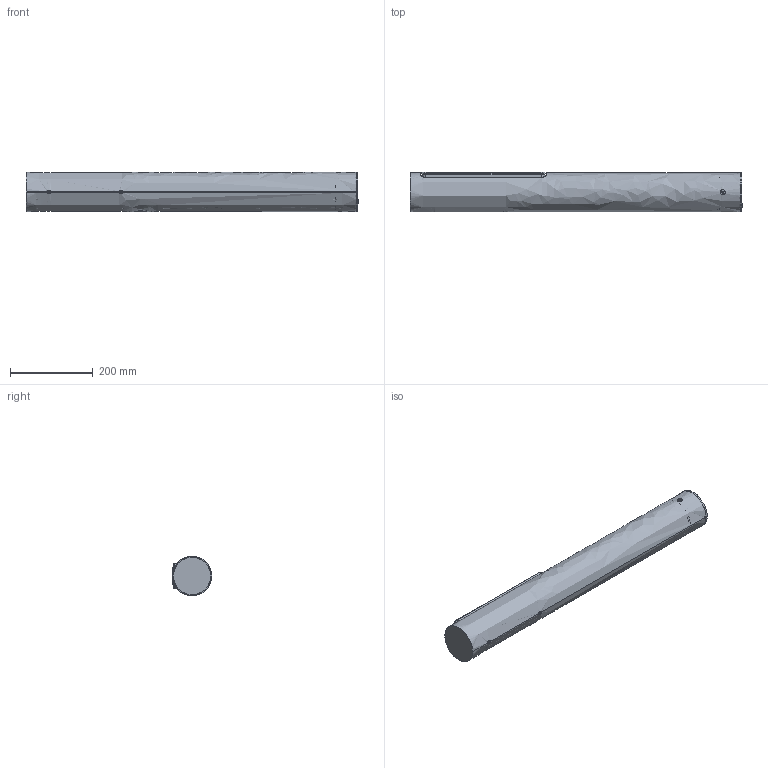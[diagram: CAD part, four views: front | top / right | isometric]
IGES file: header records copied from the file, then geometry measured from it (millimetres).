
Start section: SolidWorks IGES file using analytic representation for surfaces
Global section: file name: C:\Users\alex.movellan\OneDrive - santa &cole\Escritorio\Temp Álex\Aplique Estadio\baliza\Ficheros web\Estadio Baliza 80.IGS; native system: SolidWorks 2024; preprocessor: SolidWorks 2024; author: alex.movellan; date: 250729.161050; units: millimetre
Bounding box: 804.3 x 95.75 x 95 mm (x, y, z)
Surface area: 567057.6 mm2 (no closed solid volume)
Topology: 0 solids, 0 shells, 419 faces, 5992 edges, 5978 vertices
Faces by surface type: revolution 260, bspline 159
